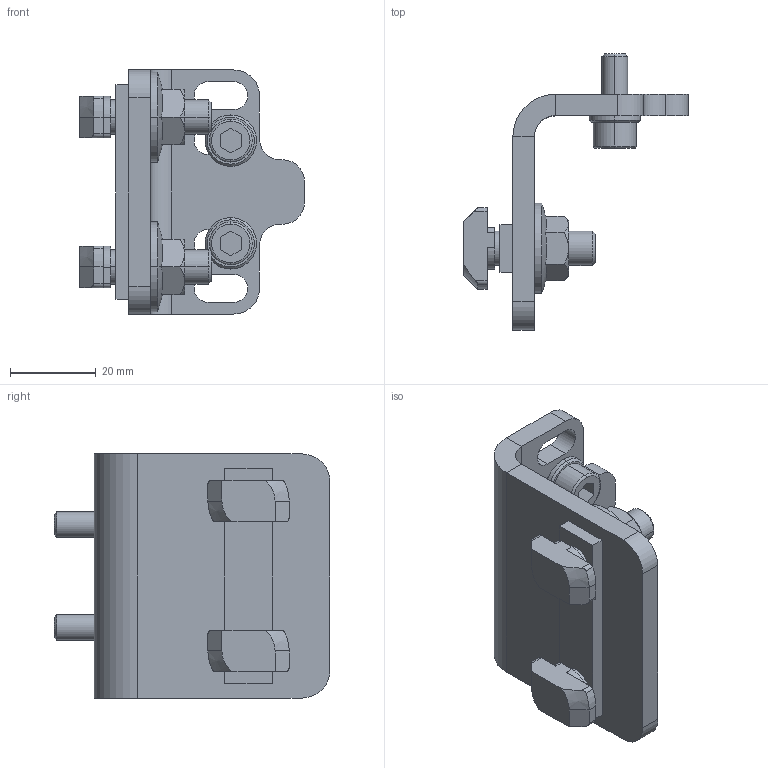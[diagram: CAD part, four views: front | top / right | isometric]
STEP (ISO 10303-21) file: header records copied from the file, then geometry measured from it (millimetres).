
FILE_DESCRIPTION (( 'STEP AP203' ), '1' );
FILE_NAME ('Asutec_75000131.STEP', '2026-08-24T05:56:13', ( '' ), ( '' ), 'SwSTEP 2.0', 'SolidWorks 2020', '' );
FILE_SCHEMA (( 'CONFIG_CONTROL_DESIGN' ));
Length unit declared in the file: millimetre
Products named in the file (1): Asutec_75000131
Bounding box: 52.5 x 64.4 x 57 mm (x, y, z)
Volume: 30782.1 mm3; surface area: 16046.4 mm2
Topology: 3 solids, 5 shells, 219 faces, 528 edges, 336 vertices
Faces by surface type: plane 107, cylinder 74, cone 30, torus 4, sphere 4
Entity records: 6619 total; most frequent: CARTESIAN_POINT 1300, DIRECTION 1140, ORIENTED_EDGE 1056, EDGE_CURVE 528, AXIS2_PLACEMENT_3D 428, VERTEX_POINT 336, VECTOR 284, LINE 284
